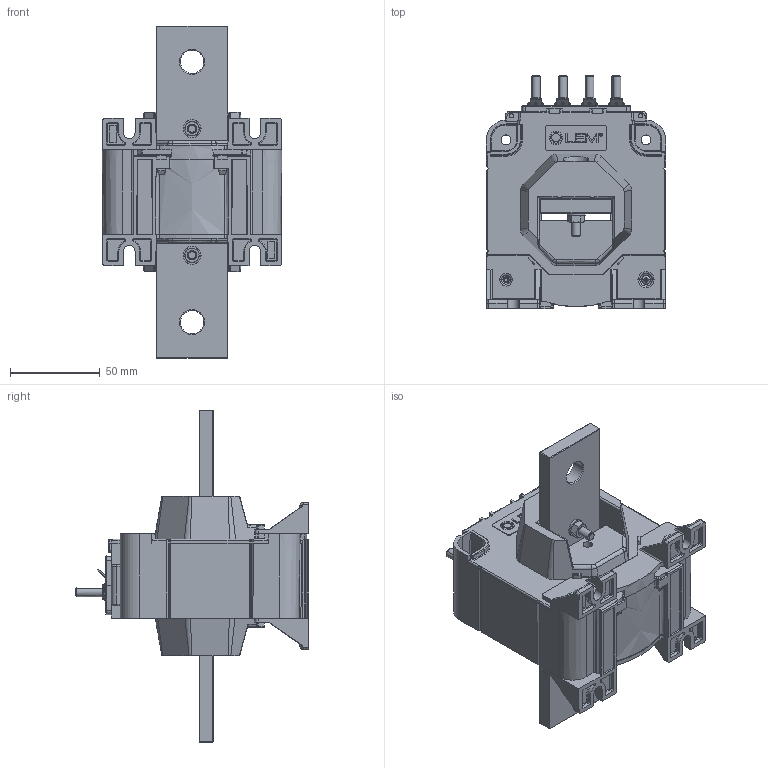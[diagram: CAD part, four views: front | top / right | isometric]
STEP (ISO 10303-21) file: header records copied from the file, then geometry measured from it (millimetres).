
FILE_DESCRIPTION(('CoCreate Modeling STEP Export'),'2;1');
FILE_NAME('BLACKBOX_LTC1000_TF.stp','2011-05-06T 8:46:13',(''),(''),'CoCreate Modeling STEP processor for AP214 (Solid Model)','CoCreate Modeling 17.00A 17-Jun-2010 (C) Parametric Technology GmbH','');
FILE_SCHEMA(('AUTOMOTIVE_DESIGN { 1 0 10303 214 1 1 1 1 }'));
Products named in the file (2): BLACKBOX_LTC1000_S_SP5
Assembly tree (1 placements, depth 2):
  BLACKBOX_LTC1000_S_SP5
    BLACKBOX_LTC1000_S_SP5
Bounding box: 100.14 x 130 x 185 mm (x, y, z)
Volume: 545848.1 mm3; surface area: 111915.5 mm2
Topology: 1 solids, 2 shells, 2869 faces, 7519 edges, 4725 vertices
Faces by surface type: plane 1250, cylinder 726, bspline 329, cone 285, extrusion 143, torus 112, sphere 24
Entity records: 126301 total; most frequent: CARTESIAN_POINT 58946, ORIENTED_EDGE 14986, DIRECTION 10627, EDGE_CURVE 7493, VERTEX_POINT 4725, VECTOR 4061, LINE 3922, AXIS2_PLACEMENT_3D 3283
